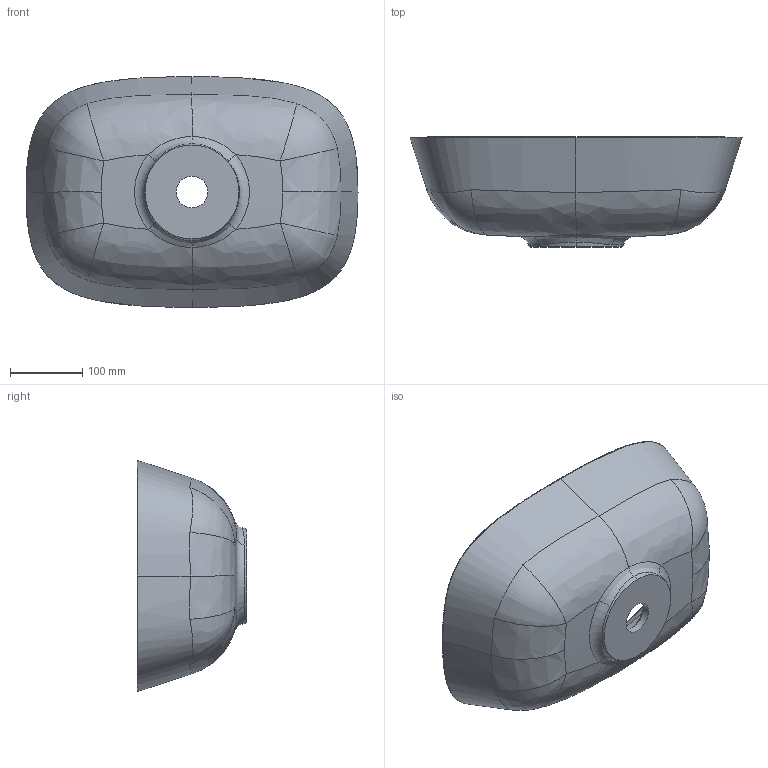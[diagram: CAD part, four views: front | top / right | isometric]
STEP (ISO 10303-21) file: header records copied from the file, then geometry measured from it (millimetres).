
FILE_DESCRIPTION (( 'STEP AP203' ), '1' );
FILE_NAME ('wb 0002c 460C FD853051.STEP', '2019-07-15T07:20:36', ( 'admin' ), ( 'Hewlett-Packard Company' ), 'SwSTEP 2.0', 'SolidWorks 2019', '' );
FILE_SCHEMA (( 'CONFIG_CONTROL_DESIGN' ));
Length unit declared in the file: millimetre
Products named in the file (1): wb 0002c 460C FD853051
Bounding box: 459.4 x 152 x 319.4 mm (x, y, z)
Volume: 2365532.7 mm3; surface area: 440969.7 mm2
Topology: 1 solids, 1 shells, 68 faces, 160 edges, 86 vertices
Faces by surface type: bspline 52, cone 8, torus 4, cylinder 2, plane 2
Entity records: 30194 total; most frequent: CARTESIAN_POINT 28992, ORIENTED_EDGE 304, EDGE_CURVE 152, DIRECTION 118, B_SPLINE_CURVE_WITH_KNOTS 104, VERTEX_POINT 86, EDGE_LOOP 70, ADVANCED_FACE 68
